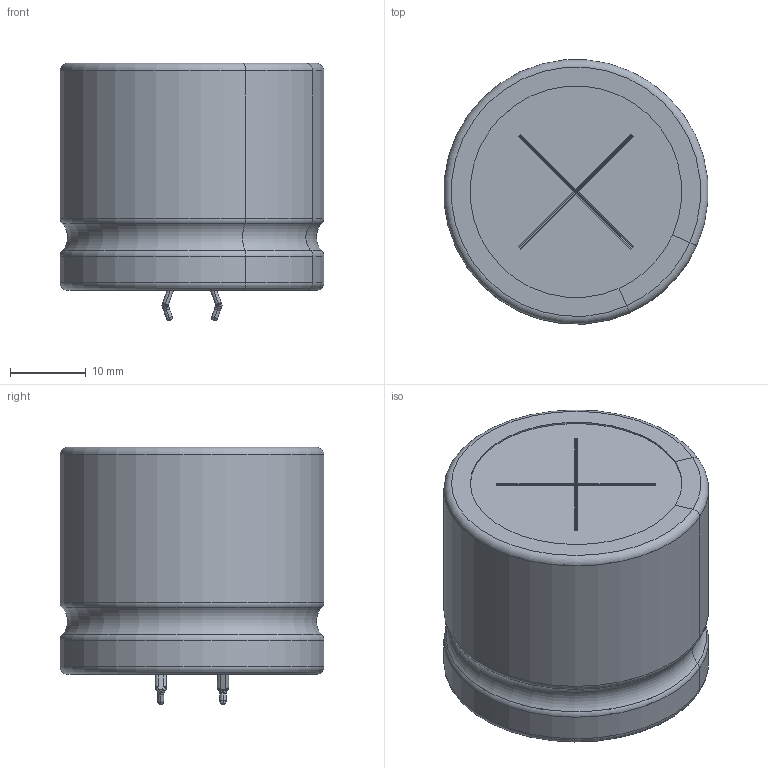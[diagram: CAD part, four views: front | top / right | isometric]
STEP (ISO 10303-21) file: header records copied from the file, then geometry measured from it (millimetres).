
FILE_DESCRIPTION(/* description */ (''),/* implementation_level */ '2;1');
FILE_NAME(/* name */ '35x30_Snap.stp',/* time_stamp */ '2017-09-11T16:24:33+09:00',/* author */ (''),/* organization */ (''),/* preprocessor_version */ 'ST-DEVELOPER v16',/* originating_system */ 'SIEMENS PLM Software NX 11.0',/* authorisation */ '');
FILE_SCHEMA (('AUTOMOTIVE_DESIGN { 1 0 10303 214 3 1 1 1 }'));
Length unit declared in the file: millimetre
Products named in the file (1): 35x30_Snap_0
Bounding box: 34.9 x 34.9 x 34.02 mm (x, y, z)
Volume: 28267.6 mm3; surface area: 13061.2 mm2
Topology: 5 solids, 5 shells, 208 faces, 523 edges, 310 vertices
Faces by surface type: cylinder 76, plane 75, torus 25, sphere 20, bspline 12
Full cylindrical faces by diameter (mm): 4 x2, 34.6 x2
Entity records: 6775 total; most frequent: CARTESIAN_POINT 1265, DIRECTION 1128, ORIENTED_EDGE 988, EDGE_CURVE 494, AXIS2_PLACEMENT_3D 437, VERTEX_POINT 310, LINE 254, VECTOR 254
